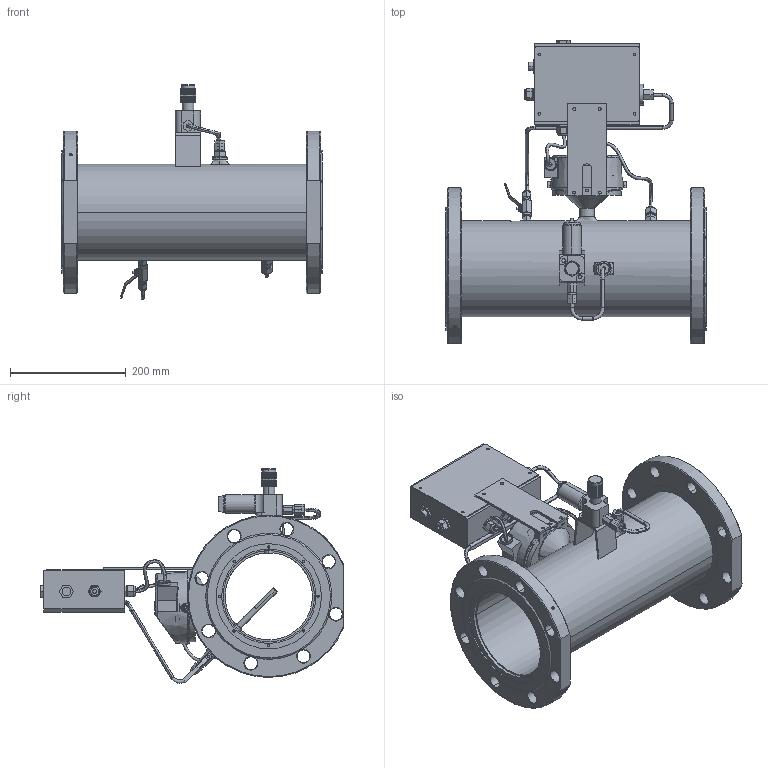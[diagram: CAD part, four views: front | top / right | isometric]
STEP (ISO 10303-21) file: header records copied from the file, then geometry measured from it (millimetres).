
FILE_DESCRIPTION((''),'2;1');
FILE_NAME('SG_SUPERFLOW_DY150_R_ASM','2020-12-23T',('solovki'),(''),'CREO PARAMETRIC BY PTC INC, 2018360','CREO PARAMETRIC BY PTC INC, 2018360','');
FILE_SCHEMA(('AUTOMOTIVE_DESIGN { 1 0 10303 214 1 1 1 1 }'));
Length unit declared in the file: millimetre
Products named in the file (28): 303_AF5; 304_AF3; 305_AF3; 306_AF1; 307_AF1; 308_AF3; 308_AF2; 309_AF3; 302_AF3_ASM; 310; 311; 312; 313; 314; 315; 301_AF1_ASM; 318; 319; 320; 321; 322; 323; 324; 325; 326; 327; 328; SG_SUPERFLOW_DY150_R_ASM
Assembly tree (30 placements, depth 4):
  SG_SUPERFLOW_DY150_R_ASM
    301_AF1_ASM
      302_AF3_ASM
        303_AF5
        304_AF3
        305_AF3
        306_AF1
        307_AF1
        308_AF3
        308_AF2
        309_AF3
      310
      311
      312  x2
      313
      314
      315
    318
    319
    320
    321
    322
    323
    324
    325
    312
    326
    327
    328  x2
Bounding box: 450 x 524.8 x 371.69 mm (x, y, z)
Volume: 6034048.6 mm3; surface area: 1107875.8 mm2
Topology: 28 solids, 62 shells, 1367 faces, 3348 edges, 2109 vertices
Faces by surface type: plane 536, cylinder 516, cone 201, torus 49, bspline 42, sphere 22, extrusion 1
Entity records: 63934 total; most frequent: CARTESIAN_POINT 12035, DIRECTION 6879, ORIENTED_EDGE 6184, PRESENTATION_STYLE_ASSIGNMENT 4509, STYLED_ITEM 4509, EDGE_CURVE 3172, CURVE_STYLE 3161, AXIS2_PLACEMENT_3D 2673
